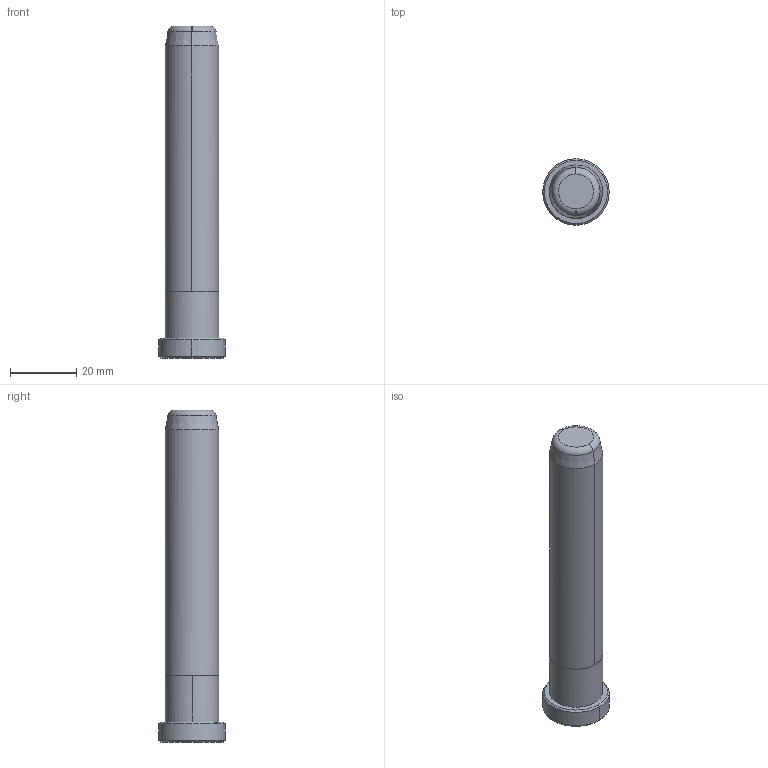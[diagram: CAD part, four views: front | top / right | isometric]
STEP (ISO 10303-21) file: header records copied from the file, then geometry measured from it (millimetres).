
FILE_DESCRIPTION(('CATIA V5 STEP Exchange'),'2;1');
FILE_NAME('C:\Users\Raffaele\Desktop\3D BOLEX\3D FILES CF BOLEX\12-PILLAR REF 858\B85816100.stp','2019-06-20T12:46:35+00:00',('none'),('none'),'CATIA Version 5 Release 20 GA (IN-10)','CATIA V5 STEP AP203','none');
FILE_SCHEMA(('CONFIG_CONTROL_DESIGN'));
Length unit declared in the file: millimetre
Products named in the file (1): B85816100
Bounding box: 20 x 20 x 100 mm (x, y, z)
Volume: 20600.3 mm3; surface area: 5602.5 mm2
Topology: 1 solids, 1 shells, 20 faces, 40 edges, 24 vertices
Faces by surface type: cone 6, cylinder 6, plane 4, torus 4
Entity records: 659 total; most frequent: CARTESIAN_POINT 218, ORIENTED_EDGE 80, DIRECTION 72, AXIS2_PLACEMENT_3D 41, EDGE_CURVE 40, VERTEX_POINT 24, EDGE_LOOP 22, ADVANCED_FACE 20
